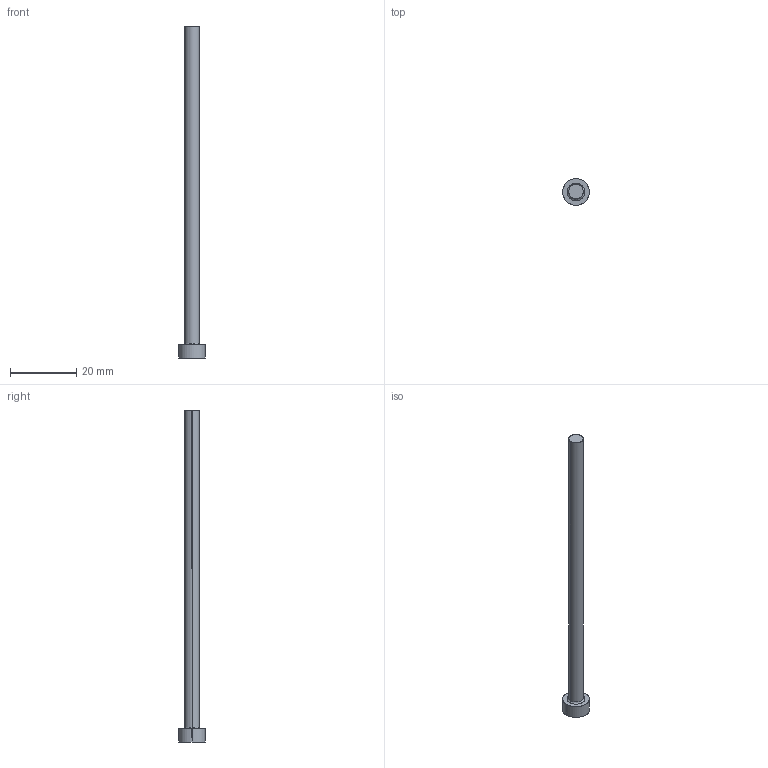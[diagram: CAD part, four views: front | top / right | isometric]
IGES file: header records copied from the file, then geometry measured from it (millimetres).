
Start section: SolidWorks IGES file using analytic representation for surfaces
Global section: file name: D:\Current\W1-2\EPHE-B\EPHE-B4.4-100.igs; native system: SolidWorks 2017; preprocessor: SolidWorks 2017; author: Ravi Kalvai; date: 240411.172652; units: millimetre
Bounding box: 8 x 8 x 100 mm (x, y, z)
Surface area: 1525.2 mm2 (no closed solid volume)
Topology: 0 solids, 0 shells, 9 faces, 152 edges, 152 vertices
Faces by surface type: bspline 5, revolution 4
